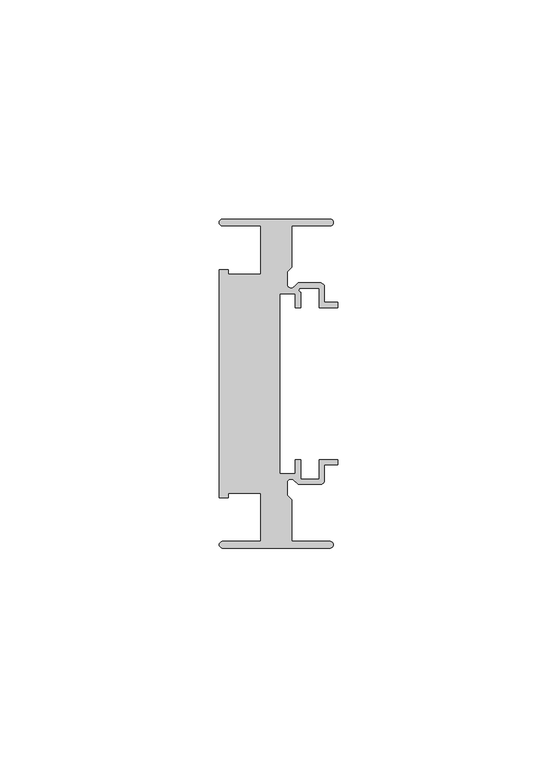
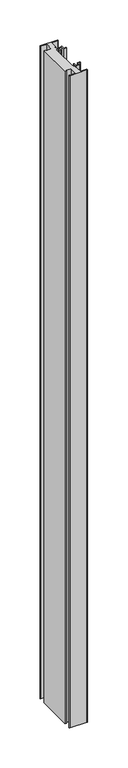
"""IFC4 building model written with IfcOpenShell, lengths in millimetres: member geometry, Прямоугольный импост : 7-AMG-2-Профиль 26Х75 Низ Л."""

from ifc_helpers import new_model, si_unit, point, frame, frame_2d, origin, place, context, project, spatial, polyline, circle_curve, trimmed, segment, composite_curve, outline, extrude, source, transform, mapped, element, save


def member_e38ae89f(model_context):
    return source(origin(), model_context, "Body", "SweptSolid", [
        extrude(outline(composite_curve([segment(polyline([(-1.7, -37.5), (-26.25, -37.5)]), True, "CONTINUOUS"), segment(trimmed(circle_curve(frame_2d((-26.25, -36.75)), 0.75), [point((-26.25, -37.5))], [point((-26.25, -36.0))], False, "CARTESIAN"), True, "CONTINUOUS"), segment(polyline([(-26.25, -36.0), (-17.5, -36.0), (-17.5, -25.0), (-24.9359877, -25.0), (-24.9359877, -26.0), (-27.0, -26.0), (-27.0, 26.0), (-24.9359877, 26.0), (-24.9359877, 25.0), (-17.5, 25.0), (-17.5, 36.0), (-26.25, 36.0)]), True, "CONTINUOUS"), segment(trimmed(circle_curve(frame_2d((-26.25, 36.75)), 0.75), [point((-26.25, 36.0))], [point((-26.25, 37.5))], False, "CARTESIAN"), True, "CONTINUOUS"), segment(polyline([(-26.25, 37.5), (-1.7, 37.5)]), True, "CONTINUOUS"), segment(trimmed(circle_curve(frame_2d((-1.7, 36.75)), 0.75), [point((-1.7, 37.5))], [point((-1.7, 36.0))], False, "CARTESIAN"), True, "CONTINUOUS"), segment(polyline([(-1.7, 36.0), (-10.5, 36.0), (-10.5, 26.5029437), (-11.5, 25.5029437), (-11.5, 22.6727922)]), True, "CONTINUOUS"), segment(trimmed(circle_curve(frame_2d((-10.6, 22.6727922)), 0.9), [point((-11.5, 22.6727922))], [point((-9.9636039, 22.0363961))], True, "CARTESIAN"), True, "CONTINUOUS"), segment(polyline([(-9.9636039, 22.0363961), (-9.0, 23.0), (-4.0, 23.0)]), True, "CONTINUOUS"), segment(trimmed(circle_curve(frame_2d((-4.0, 22.0)), 1.0), [point((-4.0, 23.0))], [point((-3.0, 22.0))], False, "CARTESIAN"), True, "CONTINUOUS"), segment(polyline([(-3.0, 22.0), (-3.0, 18.55), (0.0, 18.55), (0.0, 17.35), (-4.2, 17.35), (-4.2, 21.8), (-8.5029437, 21.8)]), True, "CONTINUOUS"), segment(trimmed(circle_curve(frame_2d((-8.3343131, 21.3314262)), 0.4979937), [point((-8.5029437, 21.8))], [point((-8.45, 20.8470563))], True, "CARTESIAN"), True, "CONTINUOUS"), segment(polyline([(-8.45, 20.8470563), (-8.45, 17.35), (-9.65, 17.35), (-9.65, 20.55), (-13.15, 20.55), (-13.15, -20.55), (-9.65, -20.55), (-9.65, -17.35), (-8.45, -17.35), (-8.45, -21.8), (-4.2, -21.8), (-4.2, -17.35), (0.0, -17.35), (0.0, -18.55), (-3.0, -18.55), (-3.0, -22.0)]), True, "CONTINUOUS"), segment(trimmed(circle_curve(frame_2d((-4.0, -22.0)), 1.0), [point((-3.0, -22.0))], [point((-4.0, -23.0))], False, "CARTESIAN"), True, "CONTINUOUS"), segment(polyline([(-4.0, -23.0), (-9.0, -23.0), (-9.9636039, -22.0363961)]), True, "CONTINUOUS"), segment(trimmed(circle_curve(frame_2d((-10.6, -22.6727922)), 0.9), [point((-9.9636039, -22.0363961))], [point((-11.5, -22.6727922))], True, "CARTESIAN"), True, "CONTINUOUS"), segment(polyline([(-11.5, -22.6727922), (-11.5, -25.5029437), (-10.5, -26.5029437), (-10.5, -36.0), (-1.7, -36.0)]), True, "CONTINUOUS"), segment(trimmed(circle_curve(frame_2d((-1.7, -36.75)), 0.75), [point((-1.7, -36.0))], [point((-1.7, -37.5))], False, "CARTESIAN"), True, "CONTINUOUS")], self_intersect=False)), frame((0.0, 0.0, -998.4988789), z_axis=(0.0, 0.0, 1.0), x_axis=(1.0, 0.0, 0.0)), (0.0, 0.0, 1.0), 998.4988789),
    ])


if __name__ == "__main__":
    model = new_model("IFC4")
    model_context = context("Model", 3, world=origin())
    ifc_project = project(units=[si_unit("LENGTHUNIT", "METRE", prefix="MILLI")], contexts=[model_context])
    site = spatial("IfcSite", under=ifc_project)
    building = spatial("IfcBuilding", under=site)
    placement = place(None, origin())
    member_shape = member_e38ae89f(model_context)
    element("IfcMember", 1, ObjectType="Прямоугольный импост : 7-AMG-2-Профиль 26Х75 Низ Л", at=placement, inside=building, context=model_context, shape_type="MappedRepresentation", body=[
        mapped(member_shape, transform((0.0, 0.0, 0.0), x_axis=(1.0, 0.0, 0.0), y_axis=(0.0, 1.0, 0.0), z_axis=(0.0, 0.0, 1.0))),
    ])
    save(model, "model.ifc")
